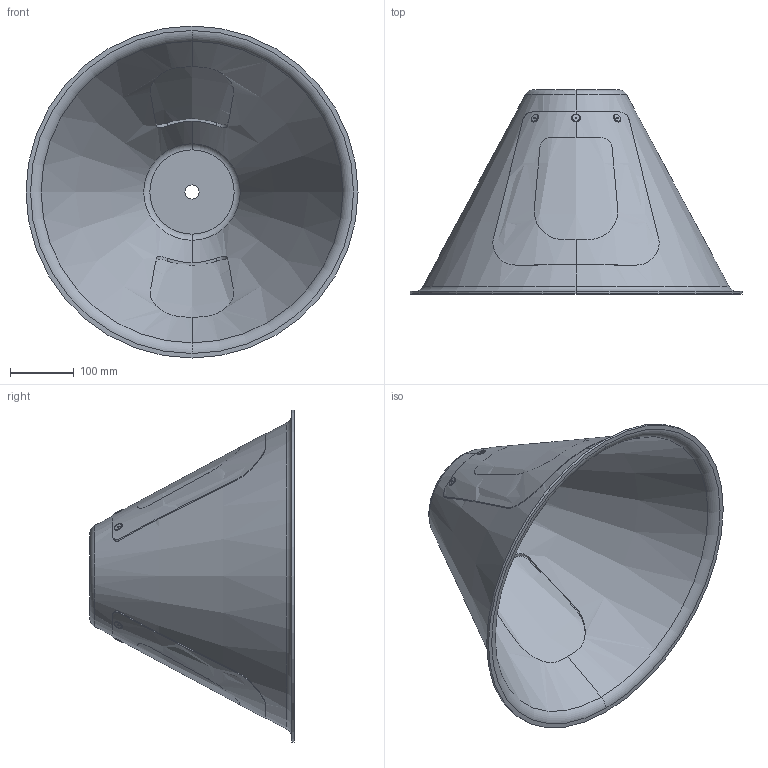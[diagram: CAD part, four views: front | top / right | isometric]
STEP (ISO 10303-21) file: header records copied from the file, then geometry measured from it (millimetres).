
FILE_DESCRIPTION (( 'STEP AP214' ), '1' );
FILE_NAME ('0000002117.STEP', '2015-05-04T06:49:18', ( 'HP' ), ( 'Hewlett-Packard Company' ), 'SwSTEP 2.0', 'SolidWorks 2014', '' );
FILE_SCHEMA (( 'AUTOMOTIVE_DESIGN' ));
Length unit declared in the file: millimetre
Products named in the file (3): 0000002117; 0000002115; 0000002116
Assembly tree (3 placements, depth 2):
  0000002117
    0000002115
    0000002116  x2
Bounding box: 520 x 320 x 520 mm (x, y, z)
Volume: 1541708.8 mm3; surface area: 981941.8 mm2
Topology: 9 solids, 9 shells, 100 faces, 244 edges, 160 vertices
Faces by surface type: cylinder 40, plane 32, torus 20, cone 8
Entity records: 3212 total; most frequent: CARTESIAN_POINT 1322, DIRECTION 361, ORIENTED_EDGE 350, EDGE_CURVE 175, AXIS2_PLACEMENT_3D 157, VERTEX_POINT 114, CIRCLE 82, EDGE_LOOP 81
